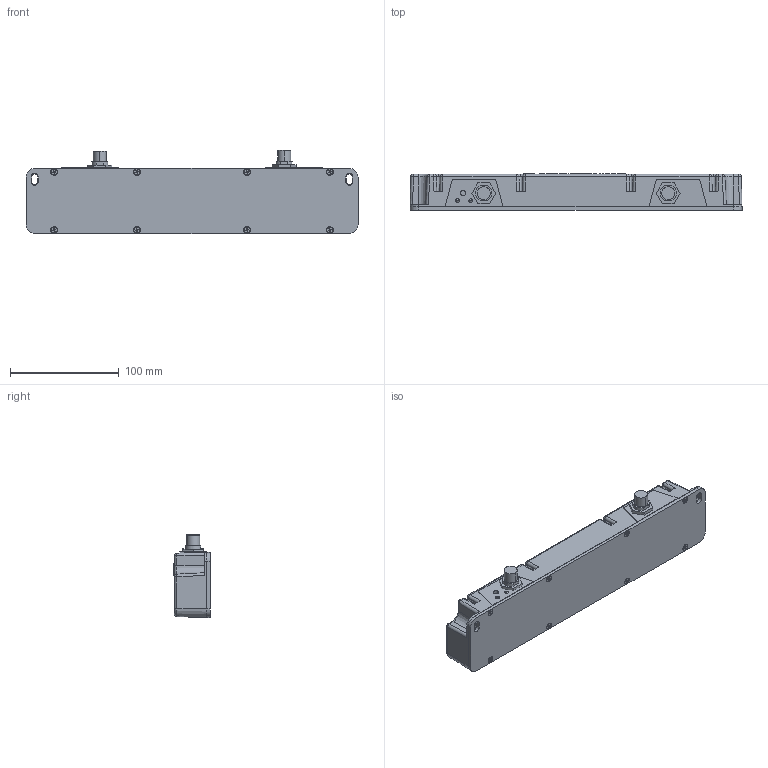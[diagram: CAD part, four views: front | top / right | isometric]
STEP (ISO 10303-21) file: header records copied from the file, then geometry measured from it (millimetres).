
FILE_DESCRIPTION (( 'STEP AP203' ), '1' );
FILE_NAME ('linear.STEP', '2007-09-28T17:57:15', ( 'Robert Drake' ), ( '' ), 'SwSTEP 2.0', 'SolidWorks 2007', '' );
FILE_SCHEMA (( 'CONFIG_CONTROL_DESIGN' ));
Length unit declared in the file: inch
Products named in the file (1): linear
Bounding box: 306 x 33.67 x 76.5 mm (x, y, z)
Surface area: 88132.2 mm2 (no closed solid volume)
Topology: 0 solids, 17 shells, 606 faces, 1989 edges, 1328 vertices
Faces by surface type: plane 310, bspline 105, cylinder 97, cone 50, sphere 24, torus 20
Entity records: 25522 total; most frequent: CARTESIAN_POINT 9009, ORIENTED_EDGE 3298, DIRECTION 3101, EDGE_CURVE 1961, VERTEX_POINT 1324, VECTOR 1305, LINE 1305, AXIS2_PLACEMENT_3D 898
